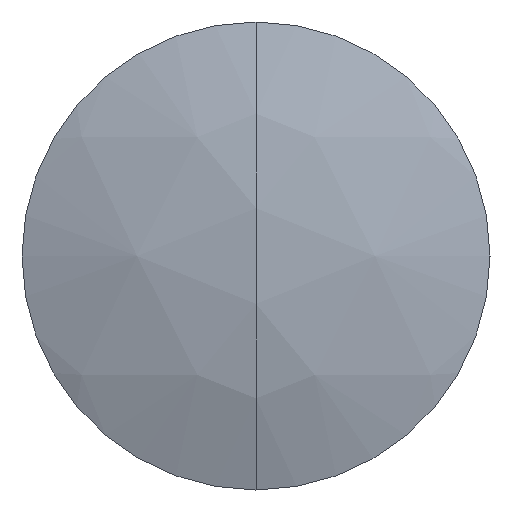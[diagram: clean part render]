
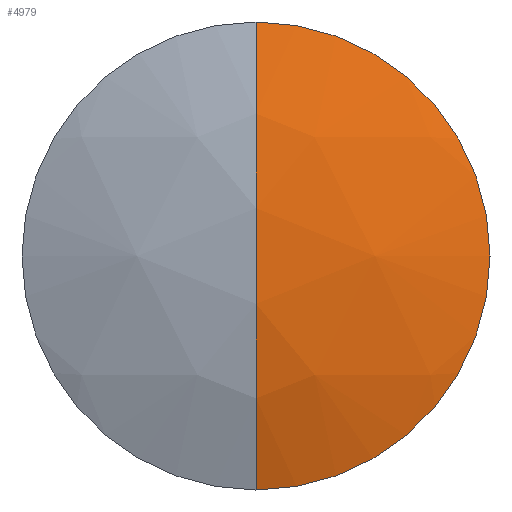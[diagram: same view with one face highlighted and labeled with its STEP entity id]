
A CAD part, left-side view. The second image highlights one B-rep face of the part: STEP entity #4979.
In plain terms, the highlighted spherical face has radius 49.609 mm.
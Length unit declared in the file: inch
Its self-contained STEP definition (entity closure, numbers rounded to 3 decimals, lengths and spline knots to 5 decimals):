
#4945=CARTESIAN_POINT('',(-1.51131,0.,0.));
#4946=DIRECTION('',(0.0,0.0,1.0));
#4947=DIRECTION('',(-1.0,0.0,0.0));
#4948=AXIS2_PLACEMENT_3D('',#4945,#4946,#4947);
#4949=SPHERICAL_SURFACE('',#4948,1.95313);
#4950=CARTESIAN_POINT('',(-3.33943,0.,-0.6875));
#4951=VERTEX_POINT('',#4950);
#4952=CARTESIAN_POINT('',(-3.33943,0.,0.6875));
#4953=VERTEX_POINT('',#4952);
#4954=CARTESIAN_POINT('',(-1.51131,0.,0.));
#4955=DIRECTION('',(0.0,1.0,0.0));
#4956=DIRECTION('',(0.0,0.0,-1.0));
#4957=AXIS2_PLACEMENT_3D('',#4954,#4955,#4956);
#4958=CIRCLE('',#4957,1.95313);
#4959=EDGE_CURVE('',#4951,#4953,#4958,.T.);
#4960=ORIENTED_EDGE('',*,*,#4959,.F.);
#4961=CARTESIAN_POINT('',(-3.33943,-0.6875,0.));
#4962=VERTEX_POINT('',#4961);
#4963=CARTESIAN_POINT('',(-3.33943,0.,0.));
#4964=DIRECTION('',(-1.0,0.0,0.0));
#4965=DIRECTION('',(0.0,-1.0,0.0));
#4966=AXIS2_PLACEMENT_3D('',#4963,#4964,#4965);
#4967=CIRCLE('',#4966,0.6875);
#4968=EDGE_CURVE('',#4951,#4962,#4967,.T.);
#4969=ORIENTED_EDGE('',*,*,#4968,.T.);
#4970=CARTESIAN_POINT('',(-3.33943,0.,0.));
#4971=DIRECTION('',(-1.0,0.0,0.0));
#4972=DIRECTION('',(0.0,-1.0,0.0));
#4973=AXIS2_PLACEMENT_3D('',#4970,#4971,#4972);
#4974=CIRCLE('',#4973,0.6875);
#4975=EDGE_CURVE('',#4962,#4953,#4974,.T.);
#4976=ORIENTED_EDGE('',*,*,#4975,.T.);
#4977=EDGE_LOOP('',(#4960,#4969,#4976));
#4978=FACE_OUTER_BOUND('',#4977,.T.);
#4979=ADVANCED_FACE('',(#4978),#4949,.T.);
